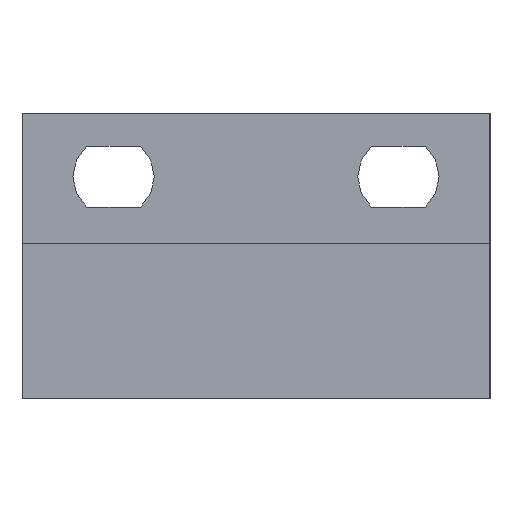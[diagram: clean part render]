
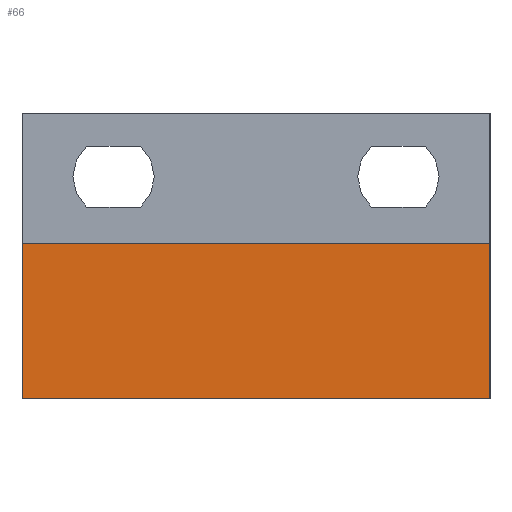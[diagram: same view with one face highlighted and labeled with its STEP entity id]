
A CAD part, left-side view. The second image highlights one B-rep face of the part: STEP entity #66.
In plain terms, the highlighted planar face has unit normal (-1, 0, 0).
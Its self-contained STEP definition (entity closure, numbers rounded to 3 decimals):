
#66=ADVANCED_FACE('',(#98),#1158,.T.);
#98=FACE_OUTER_BOUND('',#138,.T.);
#138=EDGE_LOOP('',(#279,#280,#281,#282));
#279=ORIENTED_EDGE('',*,*,#826,.F.);
#280=ORIENTED_EDGE('',*,*,#838,.F.);
#281=ORIENTED_EDGE('',*,*,#831,.F.);
#282=ORIENTED_EDGE('',*,*,#849,.F.);
#448=PCURVE('',#1151,#616);
#453=PCURVE('',#1152,#621);
#462=PCURVE('',#1153,#630);
#479=PCURVE('',#1156,#647);
#495=PCURVE('',#1158,#663);
#496=PCURVE('',#1158,#664);
#497=PCURVE('',#1158,#665);
#498=PCURVE('',#1158,#666);
#616=DEFINITIONAL_REPRESENTATION('',(#972),#2126);
#621=DEFINITIONAL_REPRESENTATION('',(#982),#2126);
#630=DEFINITIONAL_REPRESENTATION('',(#998),#2126);
#647=DEFINITIONAL_REPRESENTATION('',(#1018),#2126);
#663=DEFINITIONAL_REPRESENTATION('',(#1035),#2126);
#664=DEFINITIONAL_REPRESENTATION('',(#1036),#2126);
#665=DEFINITIONAL_REPRESENTATION('',(#1037),#2126);
#666=DEFINITIONAL_REPRESENTATION('',(#1038),#2126);
#742=SURFACE_CURVE('',#971,(#448,#495),.PCURVE_S1.);
#747=SURFACE_CURVE('',#981,(#453,#497),.PCURVE_S1.);
#754=SURFACE_CURVE('',#997,(#462,#496),.PCURVE_S1.);
#765=SURFACE_CURVE('',#1017,(#479,#498),.PCURVE_S1.);
#826=EDGE_CURVE('',#1100,#1101,#742,.T.);
#831=EDGE_CURVE('',#1105,#1110,#747,.T.);
#838=EDGE_CURVE('',#1110,#1100,#754,.T.);
#849=EDGE_CURVE('',#1101,#1105,#765,.T.);
#971=B_SPLINE_CURVE_WITH_KNOTS('',1,(#1775,#1776),.UNSPECIFIED.,.F.,.F.,
(2,2),(-54.,-46.4),.UNSPECIFIED.);
#972=B_SPLINE_CURVE_WITH_KNOTS('',1,(#1777,#1778),.UNSPECIFIED.,.F.,.F.,
(2,2),(-54.,-46.4),.UNSPECIFIED.);
#981=B_SPLINE_CURVE_WITH_KNOTS('',1,(#1795,#1796),.UNSPECIFIED.,.F.,.F.,
(2,2),(6.4,14.),.UNSPECIFIED.);
#982=B_SPLINE_CURVE_WITH_KNOTS('',1,(#1797,#1798),.UNSPECIFIED.,.F.,.F.,
(2,2),(6.4,14.),.UNSPECIFIED.);
#997=B_SPLINE_CURVE_WITH_KNOTS('',1,(#1827,#1828),.UNSPECIFIED.,.F.,.F.,
(2,2),(-23.,0.),.UNSPECIFIED.);
#998=B_SPLINE_CURVE_WITH_KNOTS('',1,(#1829,#1830),.UNSPECIFIED.,.F.,.F.,
(2,2),(-23.,0.),.UNSPECIFIED.);
#1017=B_SPLINE_CURVE_WITH_KNOTS('',1,(#1921,#1922),.UNSPECIFIED.,.F.,.F.,
(2,2),(0.,23.),.UNSPECIFIED.);
#1018=B_SPLINE_CURVE_WITH_KNOTS('',1,(#1923,#1924),.UNSPECIFIED.,.F.,.F.,
(2,2),(0.,23.),.UNSPECIFIED.);
#1035=B_SPLINE_CURVE_WITH_KNOTS('',1,(#2037,#2038),.UNSPECIFIED.,.F.,.F.,
(2,2),(-54.,-46.4),.UNSPECIFIED.);
#1036=B_SPLINE_CURVE_WITH_KNOTS('',1,(#2039,#2040),.UNSPECIFIED.,.F.,.F.,
(2,2),(-23.,0.),.UNSPECIFIED.);
#1037=B_SPLINE_CURVE_WITH_KNOTS('',1,(#2041,#2042),.UNSPECIFIED.,.F.,.F.,
(2,2),(6.4,14.),.UNSPECIFIED.);
#1038=B_SPLINE_CURVE_WITH_KNOTS('',1,(#2043,#2044),.UNSPECIFIED.,.F.,.F.,
(2,2),(0.,23.),.UNSPECIFIED.);
#1100=VERTEX_POINT('',#1744);
#1101=VERTEX_POINT('',#1745);
#1105=VERTEX_POINT('',#1749);
#1110=VERTEX_POINT('',#1754);
#1151=PLANE('',#1187);
#1152=PLANE('',#1188);
#1153=PLANE('',#1189);
#1156=PLANE('',#1192);
#1158=PLANE('',#1194);
#1187=AXIS2_PLACEMENT_3D('',#1671,#1206,$);
#1188=AXIS2_PLACEMENT_3D('',#1672,#1207,$);
#1189=AXIS2_PLACEMENT_3D('',#1673,#1208,$);
#1192=AXIS2_PLACEMENT_3D('',#1676,#1211,$);
#1194=AXIS2_PLACEMENT_3D('',#1678,#1213,$);
#1206=DIRECTION('',(0.,1.,0.));
#1207=DIRECTION('',(0.,-1.,0.));
#1208=DIRECTION('',(0.,0.,-1.));
#1211=DIRECTION('',(0.,0.,1.));
#1213=DIRECTION('',(-1.,0.,0.));
#1671=CARTESIAN_POINT('',(-789.56,-513.5,153.24));
#1672=CARTESIAN_POINT('',(-789.56,-536.5,153.24));
#1673=CARTESIAN_POINT('',(-789.5,-513.5,139.1));
#1676=CARTESIAN_POINT('',(-789.5,-513.5,146.7));
#1678=CARTESIAN_POINT('',(-789.5,-513.5,153.1));
#1744=CARTESIAN_POINT('',(-789.5,-513.5,139.1));
#1745=CARTESIAN_POINT('',(-789.5,-513.5,146.7));
#1749=CARTESIAN_POINT('',(-789.5,-536.5,146.7));
#1754=CARTESIAN_POINT('',(-789.5,-536.5,139.1));
#1775=CARTESIAN_POINT('',(-789.5,-513.5,139.1));
#1776=CARTESIAN_POINT('',(-789.5,-513.5,146.7));
#1777=CARTESIAN_POINT('',(-6.,0.));
#1778=CARTESIAN_POINT('',(-6.,-7.6));
#1795=CARTESIAN_POINT('',(-789.5,-536.5,146.7));
#1796=CARTESIAN_POINT('',(-789.5,-536.5,139.1));
#1797=CARTESIAN_POINT('',(0.,0.));
#1798=CARTESIAN_POINT('',(7.6,0.));
#1827=CARTESIAN_POINT('',(-789.5,-536.5,139.1));
#1828=CARTESIAN_POINT('',(-789.5,-513.5,139.1));
#1829=CARTESIAN_POINT('',(14.,23.));
#1830=CARTESIAN_POINT('',(14.,0.));
#1921=CARTESIAN_POINT('',(-789.5,-513.5,146.7));
#1922=CARTESIAN_POINT('',(-789.5,-536.5,146.7));
#1923=CARTESIAN_POINT('',(0.,6.4));
#1924=CARTESIAN_POINT('',(23.,6.4));
#2037=CARTESIAN_POINT('',(14.,0.));
#2038=CARTESIAN_POINT('',(6.4,0.));
#2039=CARTESIAN_POINT('',(14.,23.));
#2040=CARTESIAN_POINT('',(14.,0.));
#2041=CARTESIAN_POINT('',(6.4,23.));
#2042=CARTESIAN_POINT('',(14.,23.));
#2043=CARTESIAN_POINT('',(6.4,0.));
#2044=CARTESIAN_POINT('',(6.4,23.));
#2126=(
GEOMETRIC_REPRESENTATION_CONTEXT(2)
PARAMETRIC_REPRESENTATION_CONTEXT()
REPRESENTATION_CONTEXT('pspace','')
);
